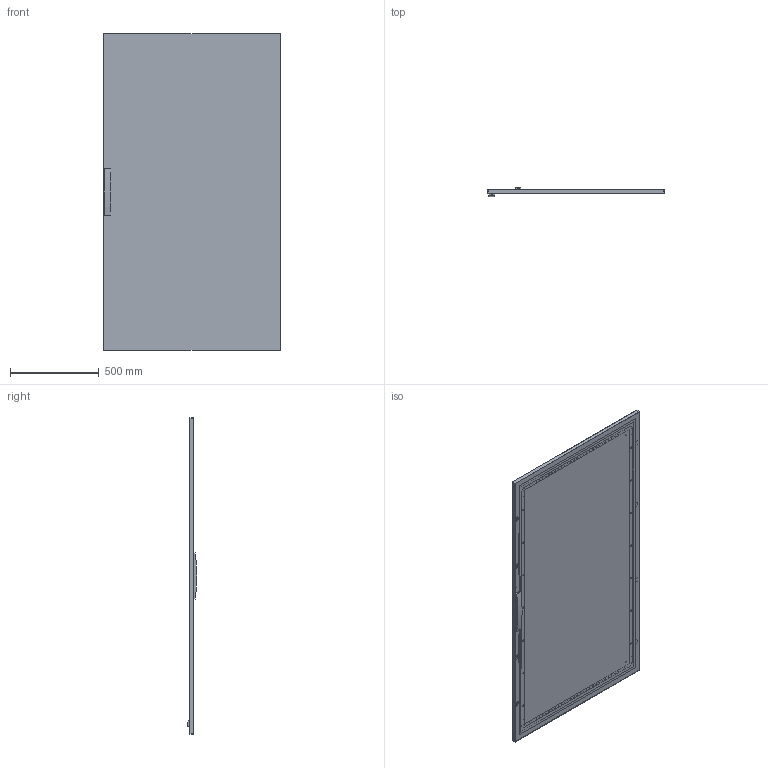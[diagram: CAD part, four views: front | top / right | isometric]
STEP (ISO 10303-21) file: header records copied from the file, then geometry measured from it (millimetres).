
FILE_DESCRIPTION((''),'2;1');
FILE_NAME('DBE18A_ASM','2025-04-18T10:20:30',('mikek'),('SAGINAW CONTROL & ENGINEERING'),'CREO PARAMETRIC BY PTC INC, 2021284','CREO PARAMETRIC BY PTC INC, 2021284','');
FILE_SCHEMA(('AUTOMOTIVE_DESIGN { 1 0 10303 214 1 1 1 1 }'));
Products named in the file (36): DBE18A-80081; GUARNIZIONE_VERTICALE_L_1800; GUARNIZIONE_ORIZZONTALE_L_1000; GUARNIZIONE_1800X1000_ASM; TIP0010; GNE020; TIP180; TELAIO_INTERNO_PORTA_1800X1000_ASM; PRIGIONIERO_M6X20; VTR506; 1390-E0010A-0000001_0088111_AF0; ROH-NR_12_AF0; ROH-NR_12_AF1; K40X22_AF0; K40X22_AF1; 1121-03-04_AF1; 1121-01-08_AF0; 1121-01-08_AF1; 1121-01-07_AF1; 1121-98_AF1; 1121-E00333-0000001_0088053_AF0; 1121-E00333-0000001_0088053_AF1; 1121-EU0333-0000000_0088053_AF0_ASM; 1121-14-01_AF0; 1000-03_AF0; 1000-277-03_AF0; 1121-U16_AF0_ASM_ASM; 1390-EU10A_ASM; 1121-68-05RA; CHIUSURA_1600-1900_ASM; 1121-19-05PH; 1121-U71-PH_ASM; RICCIOLO; VITE_TRILOBATA_M5; PDN005; DBE18A_ASM
Assembly tree (76 placements, depth 5):
  DBE18A_ASM
    DBE18A-80081
    GUARNIZIONE_1800X1000_ASM
      GUARNIZIONE_VERTICALE_L_1800  x2
      GUARNIZIONE_ORIZZONTALE_L_1000  x2
    TELAIO_INTERNO_PORTA_1800X1000_ASM
      TIP0010  x2
      GNE020  x4
      TIP180  x2
    PRIGIONIERO_M6X20  x18
    VTR506  x10
    CHIUSURA_1600-1900_ASM
      1390-EU10A_ASM
        1390-E0010A-0000001_0088111_AF0
        ROH-NR_12_AF0
        ROH-NR_12_AF1
        K40X22_AF0
        K40X22_AF1
        1121-EU0333-0000000_0088053_AF0_ASM
          1121-03-04_AF1
          1121-01-08_AF0
          1121-01-08_AF1
          1121-01-07_AF1
          1121-98_AF1
          1121-E00333-0000001_0088053_AF0
          1121-E00333-0000001_0088053_AF1
        1121-U16_AF0_ASM_ASM
          1121-14-01_AF0
          1000-03_AF0
          1000-277-03_AF0
      1121-68-05RA  x2
    1121-U71-PH_ASM  x4
      1121-19-05PH
    RICCIOLO  x4
    VITE_TRILOBATA_M5
    PDN005
Bounding box: 992 x 53.49 x 1784 mm (x, y, z)
Volume: 6544043 mm3; surface area: 4559316 mm2
Topology: 82 solids, 82 shells, 2639 faces, 7007 edges, 4695 vertices
Faces by surface type: plane 1319, cylinder 1012, cone 190, torus 64, bspline 36, sphere 18
Full cylindrical faces by diameter (mm): 11.547 x10
Entity records: 76526 total; most frequent: CARTESIAN_POINT 13774, DIRECTION 9949, ORIENTED_EDGE 9462, EDGE_CURVE 4731, PRESENTATION_STYLE_ASSIGNMENT 4586, STYLED_ITEM 4586, CURVE_STYLE 4511, AXIS2_PLACEMENT_3D 3591
